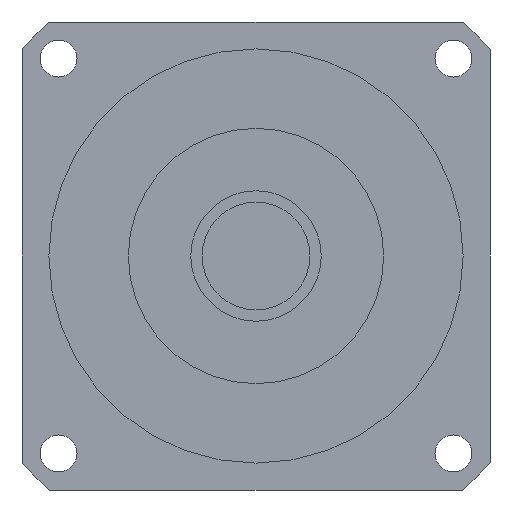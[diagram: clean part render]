
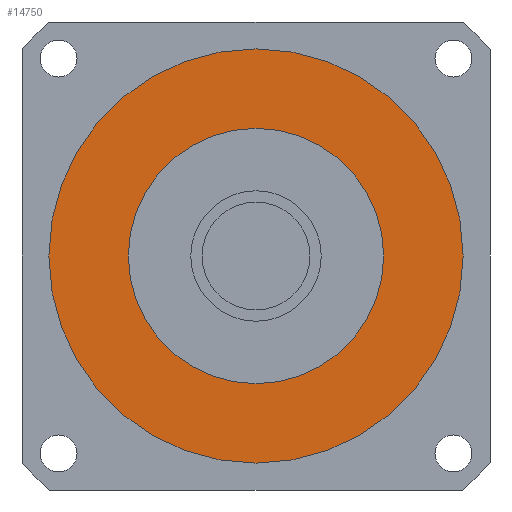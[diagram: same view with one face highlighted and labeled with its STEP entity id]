
A CAD part, left-side view. The second image highlights one B-rep face of the part: STEP entity #14750.
In plain terms, the highlighted planar face has unit normal (-1, 0, 0) as drawn and (0, 0, -1) by its records, which use the part's own axes.
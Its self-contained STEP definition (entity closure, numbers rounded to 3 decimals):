
#14210=CARTESIAN_POINT('',(36.51,0.,-39.2));
#14220=VERTEX_POINT('',#14210);
#14310=CARTESIAN_POINT('',(-36.51,0.,-39.2));
#14320=VERTEX_POINT('',#14310);
#14350=CARTESIAN_POINT('',(0.,0.,
-39.2));
#14360=DIRECTION('',(0.,0.,1.));
#14370=DIRECTION('',(0.,1.,0.));
#14380=AXIS2_PLACEMENT_3D('',#14350,#14360,#14370);
#14390=CIRCLE('',#14380,36.51);
#14400=CARTESIAN_POINT('',(0.,36.51,-39.2));
#14410=VERTEX_POINT('',#14400);
#14420=EDGE_CURVE('',#14410,#14320,#14390,.T.);
#14440=EDGE_CURVE('',#14220,#14410,#14390,.T.);
#14490=CARTESIAN_POINT('',(0.,0.,
-39.2));
#14500=DIRECTION('',(0.,0.,1.));
#14510=DIRECTION('',(-1.,0.,0.));
#14520=AXIS2_PLACEMENT_3D('',#14490,#14500,#14510);
#14530=PLANE('',#14520);
#14540=CARTESIAN_POINT('',(0.,0.,
-39.2));
#14550=DIRECTION('',(0.,0.,1.));
#14560=DIRECTION('',(1.,0.,0.));
#14570=AXIS2_PLACEMENT_3D('',#14540,#14550,#14560);
#14580=CIRCLE('',#14570,22.5);
#14590=CARTESIAN_POINT('',(22.5,0.,-39.2));
#14600=VERTEX_POINT('',#14590);
#14610=CARTESIAN_POINT('',(-22.5,0.,-39.2));
#14620=VERTEX_POINT('',#14610);
#14630=EDGE_CURVE('',#14600,#14620,#14580,.T.);
#14640=ORIENTED_EDGE('',*,*,#14630,.T.);
#14650=EDGE_CURVE('',#14620,#14600,#14580,.T.);
#14660=ORIENTED_EDGE('',*,*,#14650,.T.);
#14670=EDGE_LOOP('',(#14660,#14640));
#14680=FACE_BOUND('',#14670,.T.);
#14690=ORIENTED_EDGE('',*,*,#14420,.F.);
#14700=EDGE_CURVE('',#14320,#14220,#14390,.T.);
#14710=ORIENTED_EDGE('',*,*,#14700,.F.);
#14720=ORIENTED_EDGE('',*,*,#14440,.F.);
#14730=EDGE_LOOP('',(#14720,#14710,#14690));
#14740=FACE_OUTER_BOUND('',#14730,.T.);
#14750=ADVANCED_FACE('',(#14680,#14740),#14530,.F.);
